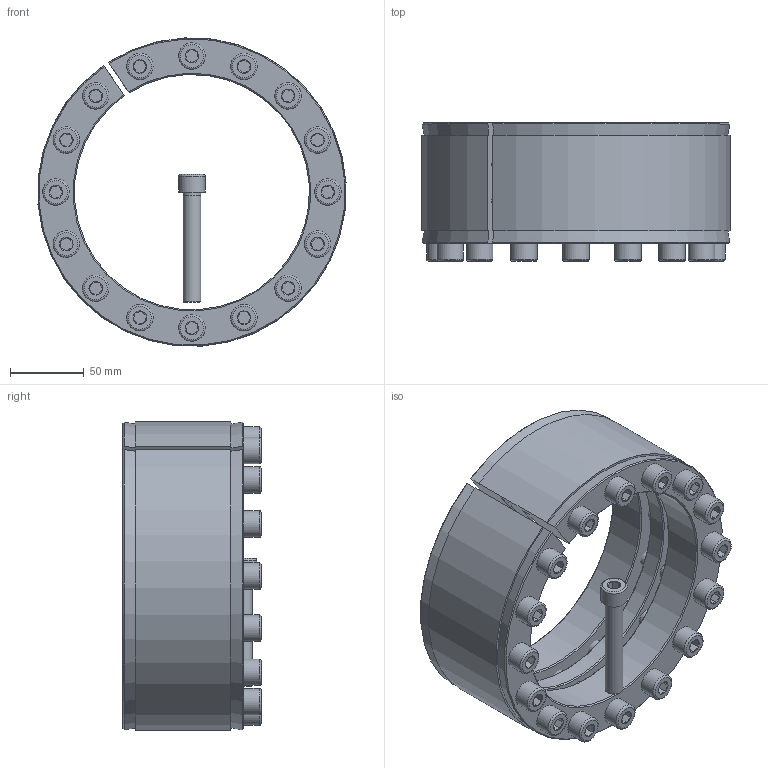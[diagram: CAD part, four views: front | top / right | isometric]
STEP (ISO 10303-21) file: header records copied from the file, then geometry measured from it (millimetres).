
FILE_DESCRIPTION( ( 'Unknown' ), '1' );
FILE_NAME( 'C:/Users/Frank/Eigene Daten/CAD/Solid Edge/KBK Karpstein/KBS Layout Baureihen/KBS 18/KBS - 160 x 210.stp', 'Unknown', ( 'Unknown' ), ( 'Unknown' ), 'XStep 1.0', 'Unknown', ' ' );
FILE_SCHEMA( ( 'automotive_design' ) );
Length unit declared in the file: millimetre
Products named in the file (3): Assem1; ISO EN DIN 4762 M12x75; KBS 18 - 160 x 210
Bounding box: 209.5 x 94 x 209.62 mm (x, y, z)
Volume: 1979707.7 mm3; surface area: 471326.9 mm2
Topology: 19 solids, 19 shells, 605 faces, 1361 edges, 798 vertices
Faces by surface type: plane 256, cylinder 172, cone 143, torus 34
Full cylindrical faces by diameter (mm): 10.106 x32, 11 x17, 12 x34, 13 x64, 18 x17
Entity records: 4302 total; most frequent: CARTESIAN_POINT 909, DIRECTION 704, ORIENTED_EDGE 566, AXIS2_PLACEMENT_3D 334, EDGE_CURVE 283, EDGE_LOOP 238, CIRCLE 201, VERTEX_POINT 199
